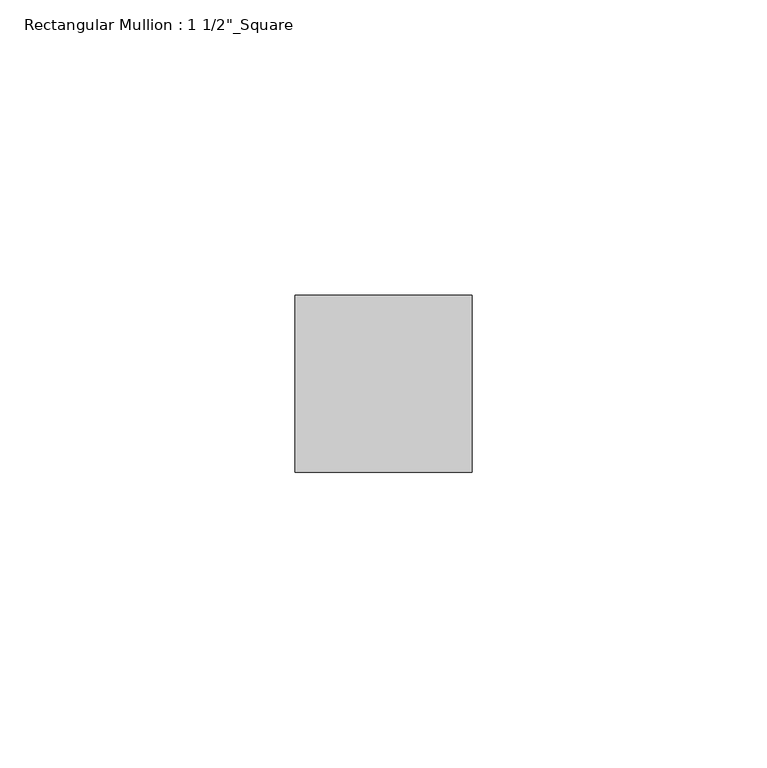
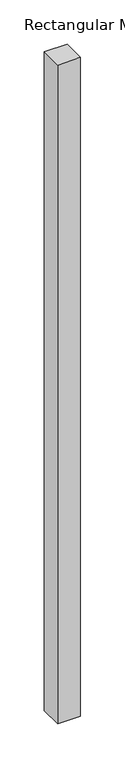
"""IFC4 building model written with IfcOpenShell, lengths in millimetres: member geometry."""

from ifc_helpers import new_model, si_unit, frame, origin, place, context, project, spatial, polyline, outline, extrude, source, transform, mapped, element, save


def member_da172304(model_context):
    return source(origin(), model_context, "Body", "SweptSolid", [
        extrude(outline(polyline([(15.0, 27.5), (15.0, -2.5), (-15.0, -2.5), (-15.0, 27.5), (15.0, 27.5)])), frame((0.0, 0.0, -909.0399999), z_axis=(0.0, 0.0, 1.0), x_axis=(1.0, 0.0, 0.0)), (0.0, 0.0, 1.0), 909.0399999),
    ])


if __name__ == "__main__":
    model = new_model("IFC4")
    model_context = context("Model", 3, world=origin())
    ifc_project = project(units=[si_unit("LENGTHUNIT", "METRE", prefix="MILLI")], contexts=[model_context])
    site = spatial("IfcSite", under=ifc_project)
    building = spatial("IfcBuilding", under=site)
    placement = place(None, origin())
    member_shape = member_da172304(model_context)
    element("IfcMember", 1, ObjectType="Rectangular Mullion : 1 1/2\"_Square", at=placement, inside=building, context=model_context, shape_type="MappedRepresentation", body=[
        mapped(member_shape, transform((0.0, 0.0, 0.0), x_axis=(1.0, 0.0, 0.0), y_axis=(0.0, 1.0, 0.0), z_axis=(0.0, 0.0, 1.0))),
    ])
    save(model, "model.ifc")
